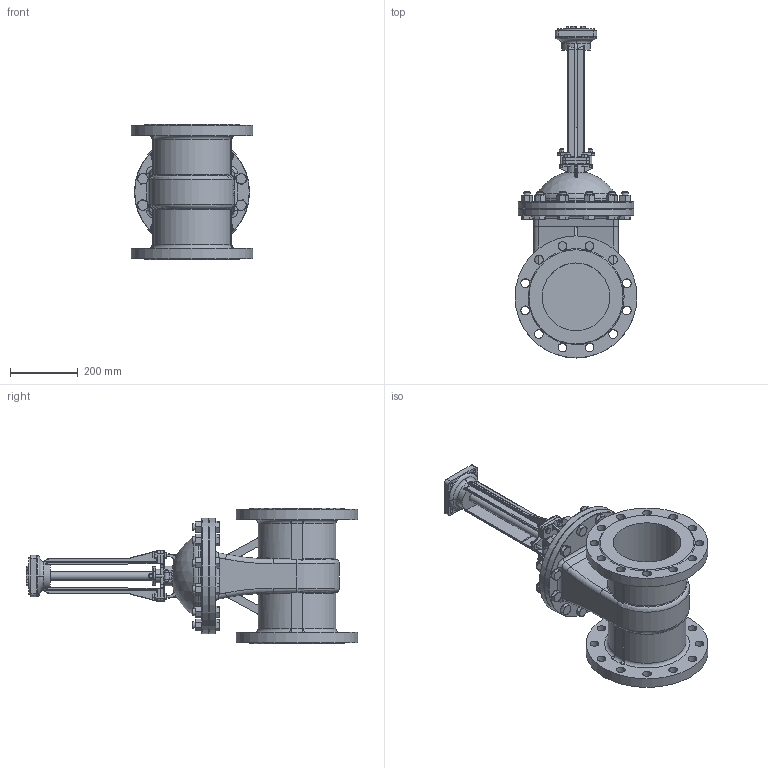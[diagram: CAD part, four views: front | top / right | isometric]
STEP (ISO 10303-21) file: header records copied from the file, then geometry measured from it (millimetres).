
FILE_DESCRIPTION(('STEP AP242'), '1');
FILE_NAME('GVWR2121M-2W-F-ÎÑÒ Çàäâèæêà êëèíîâàÿ ñ âûäâèæíûì øòîêîì Äó200 Ðó25', '2026-05-31T15:16:50', ('R2D2'), (''), 'C3D Converter', 'C3D Toolkit', '');
FILE_SCHEMA(('AP242_MANAGED_MODEL_BASED_3D_ENGINEERING_MIM_LF { 1 0 10303 442 1 1 4 }'));
Length unit declared in the file: millimetre
Products named in the file (1): GVWR2121M-2W-F-ОСТ
Bounding box: 360 x 980 x 400 mm (x, y, z)
Volume: 23555944.6 mm3; surface area: 1540597.5 mm2
Topology: 1 solids, 13 shells, 1476 faces, 3669 edges, 2264 vertices
Faces by surface type: plane 649, cone 288, cylinder 272, extrusion 113, bspline 73, torus 72, sphere 5, revolution 4
Full cylindrical faces by diameter (mm): 7 x4, 8 x4, 10 x8, 12 x4, 15 x2, 16 x4, 20 x36, 25 x2, 26 x24, 27.9 x12, 30 x9, 40 x1, 45 x1, 85 x1, 108 x1, 200 x2, 240 x2, 340 x2, 360 x2
Entity records: 82020 total; most frequent: CARTESIAN_POINT 37042, ORIENTED_EDGE 6948, DIRECTION 6257, EDGE_CURVE 3474, AXIS2_PLACEMENT_3D 2397, VERTEX_POINT 2256, EDGE_LOOP 1854, FACE_BOUND 1649
